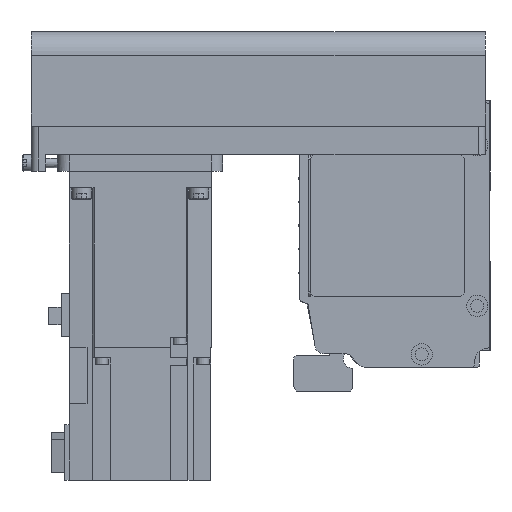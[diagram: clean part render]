
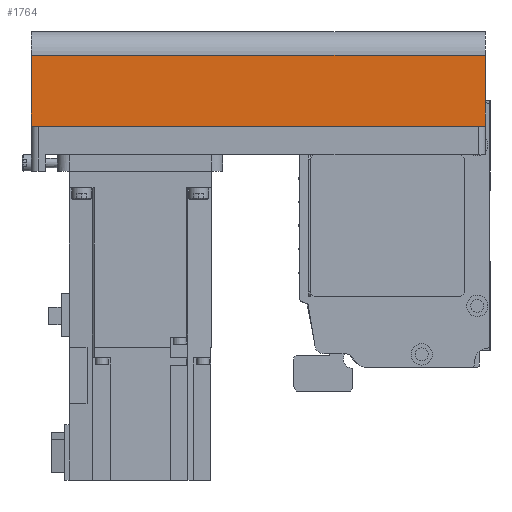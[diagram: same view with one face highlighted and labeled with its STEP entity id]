
A CAD part, left-side view. The second image highlights one B-rep face of the part: STEP entity #1764.
In plain terms, the highlighted planar face has unit normal (-1, 0, 0) as drawn and (0, 1, 0) by its records, which use the part's own axes.
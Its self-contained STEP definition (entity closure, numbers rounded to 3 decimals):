
#1764 = ADVANCED_FACE( '', ( #3856 ), #3857, .T. );
#3856 = FACE_OUTER_BOUND( '', #6296, .T. );
#3857 = PLANE( '', #6297 );
#6296 = EDGE_LOOP( '', ( #10998, #10999, #11000, #11001 ) );
#6297 = AXIS2_PLACEMENT_3D( '', #11002, #11003, #11004 );
#10998 = ORIENTED_EDGE( '', *, *, #15617, .F. );
#10999 = ORIENTED_EDGE( '', *, *, #14943, .F. );
#11000 = ORIENTED_EDGE( '', *, *, #15618, .T. );
#11001 = ORIENTED_EDGE( '', *, *, #15619, .T. );
#11002 = CARTESIAN_POINT( '', ( -192., 40., -42. ) );
#11003 = DIRECTION( '', ( 0., 1., 0. ) );
#11004 = DIRECTION( '', ( 0., 0., 1. ) );
#14943 = EDGE_CURVE( '', #18235, #18231, #18237, .T. );
#15617 = EDGE_CURVE( '', #18231, #19202, #19203, .T. );
#15618 = EDGE_CURVE( '', #18235, #18769, #19204, .T. );
#15619 = EDGE_CURVE( '', #18769, #19202, #19205, .T. );
#18231 = VERTEX_POINT( '', #22568 );
#18235 = VERTEX_POINT( '', #22573 );
#18237 = LINE( '', #22575, #22576 );
#18769 = VERTEX_POINT( '', #23294 );
#19202 = VERTEX_POINT( '', #23868 );
#19203 = LINE( '', #23869, #23870 );
#19204 = LINE( '', #23871, #23872 );
#19205 = LINE( '', #23873, #23874 );
#22568 = CARTESIAN_POINT( '', ( 0., 40., -42. ) );
#22573 = CARTESIAN_POINT( '', ( -192., 40., -42. ) );
#22575 = CARTESIAN_POINT( '', ( -192., 40., -42. ) );
#22576 = VECTOR( '', #26440, 1000. );
#23294 = CARTESIAN_POINT( '', ( -192., 40., -12.1 ) );
#23868 = CARTESIAN_POINT( '', ( 0., 40., -12.1 ) );
#23869 = CARTESIAN_POINT( '', ( 0., 40., -42. ) );
#23870 = VECTOR( '', #27221, 1000. );
#23871 = CARTESIAN_POINT( '', ( -192., 40., -42. ) );
#23872 = VECTOR( '', #27222, 1000. );
#23873 = CARTESIAN_POINT( '', ( -192., 40., -12.1 ) );
#23874 = VECTOR( '', #27223, 1000. );
#26440 = DIRECTION( '', ( 1., 0., 0. ) );
#27221 = DIRECTION( '', ( 0., 0., 1. ) );
#27222 = DIRECTION( '', ( 0., 0., 1. ) );
#27223 = DIRECTION( '', ( 1., 0., 0. ) );
